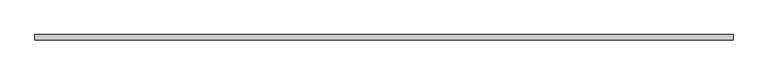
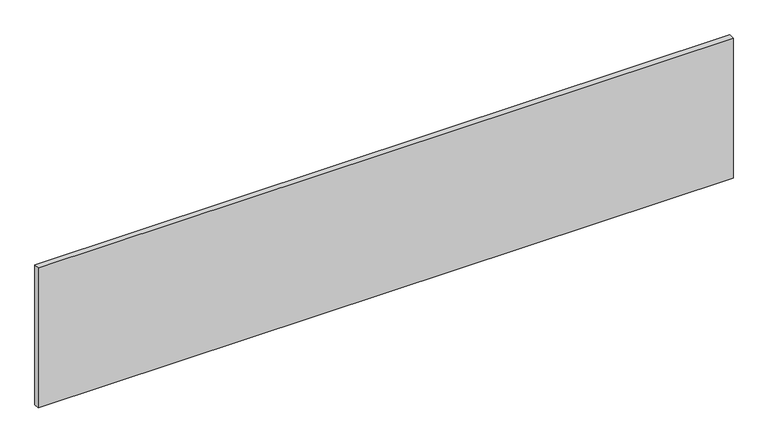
"""IFC4 building model written with IfcOpenShell, lengths in millimetres: plate geometry, Panneau système : Vitrages extérieur."""

from ifc_helpers import new_model, si_unit, origin, origin_with_axes, place, context, project, spatial, polyline, outline, extrude, source, transform, mapped, element, save


def plate_52075400(model_context):
    return source(origin(), model_context, "Body", "SweptSolid", [
        extrude(outline(polyline([(1515.1048276, -12.0), (-1515.1048276, -12.0), (-1515.1048276, 12.0), (1515.1048276, 12.0), (1515.1048276, -12.0)])), origin_with_axes(), (0.0, 0.0, 1.0), 646.2233546),
    ])


if __name__ == "__main__":
    model = new_model("IFC4")
    model_context = context("Model", 3, world=origin())
    ifc_project = project(units=[si_unit("LENGTHUNIT", "METRE", prefix="MILLI")], contexts=[model_context])
    site = spatial("IfcSite", under=ifc_project)
    building = spatial("IfcBuilding", under=site)
    placement = place(None, origin())
    plate_shape = plate_52075400(model_context)
    element("IfcPlate", 1, ObjectType="Panneau système : Vitrages extérieur", at=placement, inside=building, context=model_context, shape_type="MappedRepresentation", body=[
        mapped(plate_shape, transform((0.0, 0.0, 0.0), x_axis=(1.0, 0.0, 0.0), y_axis=(0.0, 1.0, 0.0), z_axis=(0.0, 0.0, 1.0))),
    ])
    save(model, "model.ifc")
